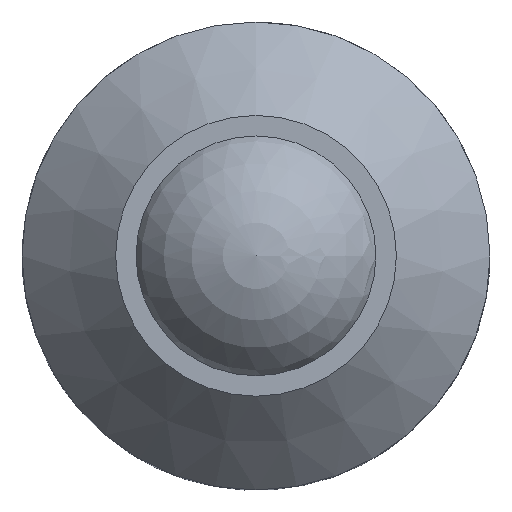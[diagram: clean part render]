
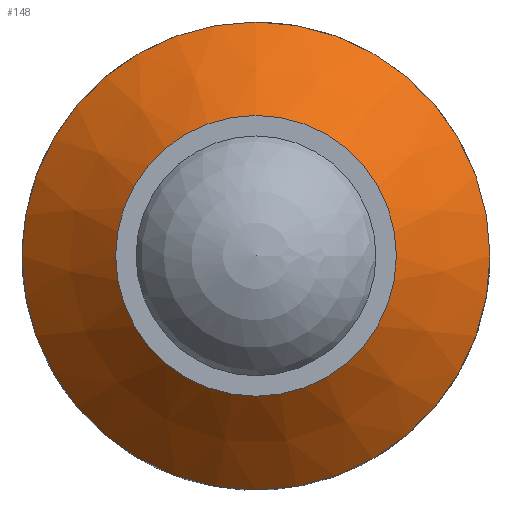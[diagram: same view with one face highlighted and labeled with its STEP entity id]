
A CAD part, top view. The second image highlights one B-rep face of the part: STEP entity #148.
In plain terms, the highlighted conical face has half-angle 45 degrees and reference radius 3.2 mm.
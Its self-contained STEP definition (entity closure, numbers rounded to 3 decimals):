
#44=FACE_BOUND('',#84,.T.);
#54=CIRCLE('',#171,2.4);
#55=CIRCLE('',#173,4.);
#64=FACE_OUTER_BOUND('',#83,.T.);
#83=EDGE_LOOP('',(#129));
#84=EDGE_LOOP('',(#130));
#101=VERTEX_POINT('',#317);
#102=VERTEX_POINT('',#320);
#112=EDGE_CURVE('',#101,#101,#54,.T.);
#113=EDGE_CURVE('',#102,#102,#55,.T.);
#129=ORIENTED_EDGE('',*,*,#113,.F.);
#130=ORIENTED_EDGE('',*,*,#112,.T.);
#139=CONICAL_SURFACE('',#172,3.2,45.);
#148=ADVANCED_FACE('',(#64,#44),#139,.T.);
#171=AXIS2_PLACEMENT_3D('',#318,#210,#211);
#172=AXIS2_PLACEMENT_3D('',#319,#212,#213);
#173=AXIS2_PLACEMENT_3D('',#321,#214,#215);
#210=DIRECTION('center_axis',(0.,0.,-1.));
#211=DIRECTION('ref_axis',(0.,1.,0.));
#212=DIRECTION('center_axis',(0.,0.,-1.));
#213=DIRECTION('ref_axis',(0.,1.,0.));
#214=DIRECTION('center_axis',(0.,0.,-1.));
#215=DIRECTION('ref_axis',(0.,1.,0.));
#317=CARTESIAN_POINT('',(0.,2.4,5.));
#318=CARTESIAN_POINT('Origin',(0.,0.,5.));
#319=CARTESIAN_POINT('Origin',(0.,0.,4.2));
#320=CARTESIAN_POINT('',(0.,4.,3.4));
#321=CARTESIAN_POINT('Origin',(0.,0.,3.4));
